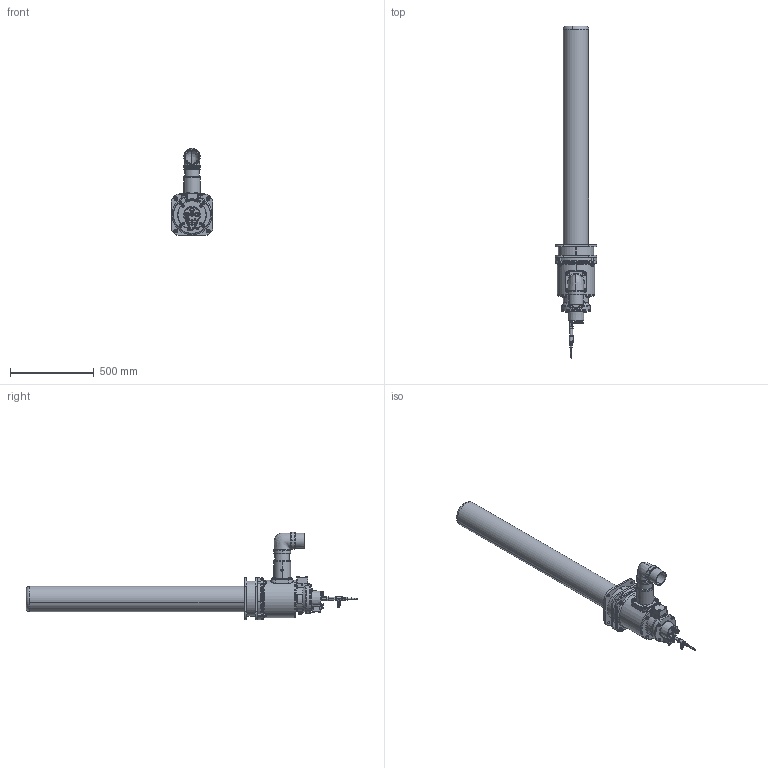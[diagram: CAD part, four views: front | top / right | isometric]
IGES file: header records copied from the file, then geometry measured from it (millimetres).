
Global section: file name: No Iges File Name specified; native system: AutoDesk Inventor R12.0; preprocessor: AutoDesk Inventor Iges Exporter R12.0; date: 20110916.130330; units: millimetre
Bounding box: 250 x 1987.18 x 523.32 mm (x, y, z)
Volume: 42068678.2 mm3; surface area: 2206549.9 mm2
Topology: 21 solids, 21 shells, 2583 faces, 6324 edges, 3922 vertices
Faces by surface type: plane 953, cylinder 546, cone 470, bspline 334, revolution 230, torus 50
Full cylindrical faces by diameter (mm): 11.8 x1, 14.8 x12, 21.1 x4, 88.9 x10
